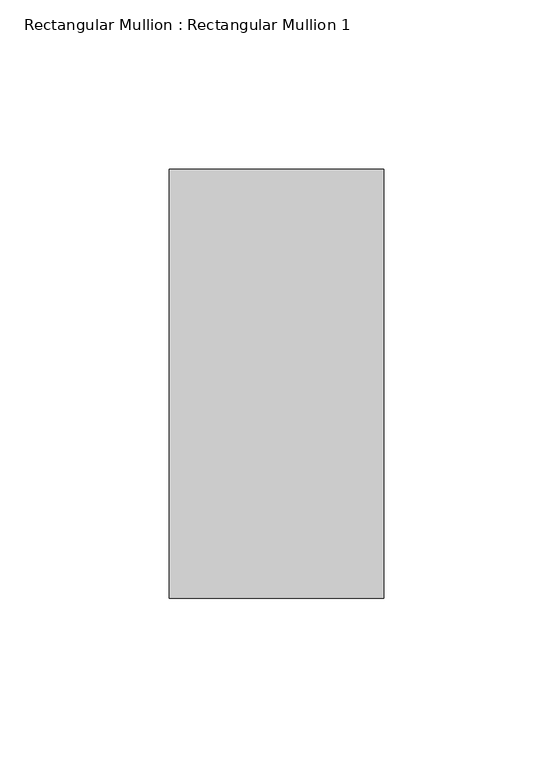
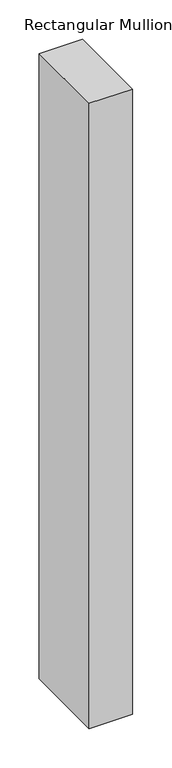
"""IFC4 building model written with IfcOpenShell, lengths in millimetres: member geometry, Rectangular Mullion : Rectangular Mullion 1."""

import ifcopenshell
import ifcopenshell.guid

model = None  # the IFC model being written
_history = None  # IfcOwnerHistory: only IFC2X3 demands one
_inside = {}  # id of a spatial element -> (the spatial element, [elements in it])
_under = {}  # id of a project, library or spatial element -> (it, [spatial elements below it])
_declared = {}  # id of a project -> (the project, [libraries it declares])
_typed = {}  # id of a type object -> (the type object, [elements of that type])
_made_of = {}  # id of a material, layer set ... -> (it, [elements and type objects made of it])


def new_model(schema):
    """Start an empty IFC model of exactly this schema.

    Asked for "IFC4X3", IfcOpenShell would pick the latest addendum, in which some entities
    have other attributes; the version numbers below select the first issue.
    IFC2X3 requires an IfcOwnerHistory on every rooted entity: one is made here for all.
    """
    global model, _history
    if schema == "IFC4X3":
        model = ifcopenshell.file(schema_version=(4, 3, 0, 0))
    else:
        model = ifcopenshell.file(schema=schema)
    _inside.clear()
    _under.clear()
    _declared.clear()
    _typed.clear()
    _made_of.clear()
    _history = None
    if model.schema == "IFC2X3":
        org = make("IfcOrganization", Name="unknown")
        user = make(
            "IfcPersonAndOrganization",
            ThePerson=make("IfcPerson", FamilyName="unknown"),
            TheOrganization=org,
        )
        app = make(
            "IfcApplication",
            ApplicationDeveloper=org,
            Version="unknown",
            ApplicationFullName="unknown",
            ApplicationIdentifier="unknown",
        )
        _history = make(
            "IfcOwnerHistory",
            OwningUser=user,
            OwningApplication=app,
            ChangeAction="ADDED",
            CreationDate=0,
        )
    return model


def make(cls, **values):
    """One entity of the class cls with the attributes given. An attribute that is None is left unset."""
    return model.create_entity(
        cls, **{name: value for name, value in values.items() if value is not None}
    )


def rooted(cls, **values):
    """An entity with a GlobalId (a new one), such as an element, a storey or a relation."""
    return make(cls, GlobalId=ifcopenshell.guid.new(), OwnerHistory=_history, **values)


def si_unit(unit_type, name, prefix=None):
    """IfcSIUnit, for example si_unit("LENGTHUNIT", "METRE", prefix="MILLI")."""
    return make("IfcSIUnit", UnitType=unit_type, Prefix=prefix, Name=name)


def assignment(units):
    """IfcUnitAssignment: the units of a project."""
    return None if units is None else make("IfcUnitAssignment", Units=units)


def point(xyz):
    """IfcCartesianPoint."""
    return None if xyz is None else make("IfcCartesianPoint", Coordinates=xyz)


def direction(xyz):
    """IfcDirection."""
    return None if xyz is None else make("IfcDirection", DirectionRatios=xyz)


def frame(location, z_axis=None, x_axis=None):
    """IfcAxis2Placement3D, a coordinate frame: its origin and axes. An axis left out is left unset."""
    return make(
        "IfcAxis2Placement3D",
        Location=point(location),
        Axis=direction(z_axis),
        RefDirection=direction(x_axis),
    )


def origin():
    """The frame at (0, 0, 0) with its axes left unset."""
    return frame((0.0, 0.0, 0.0))


def place(relative_to, where):
    """IfcLocalPlacement: puts the frame where relative to a parent placement (None: the world)."""
    return make(
        "IfcLocalPlacement", PlacementRelTo=relative_to, RelativePlacement=where
    )


def context(
    kind, dimensions, precision=None, world=None, true_north=None, identifier=None
):
    """IfcGeometricRepresentationContext, for example the 3D "Model" context."""
    return make(
        "IfcGeometricRepresentationContext",
        ContextIdentifier=identifier,
        ContextType=kind,
        CoordinateSpaceDimension=dimensions,
        Precision=precision,
        WorldCoordinateSystem=world,
        TrueNorth=true_north,
    )


def project(units=None, contexts=None):
    """IfcProject with its units and contexts."""
    return rooted(
        "IfcProject",
        Name="project",
        RepresentationContexts=contexts,
        UnitsInContext=assignment(units),
    )


def spatial(cls, under=None, at=None, **own):
    """A site, building, storey or space (cls), placed at a placement, below another one or the project."""
    s = rooted(cls, ObjectPlacement=at, **own)
    if under is not None:
        _under.setdefault(under.id(), (under, []))[1].append(s)
    return s


def polyline(points):
    """IfcPolyline through the points."""
    return make("IfcPolyline", Points=[point(p) for p in points])


def outline(outer, holes=None, kind="AREA"):
    """IfcArbitraryClosedProfileDef: a profile drawn as a closed curve; with holes, ...WithVoids."""
    if holes is None:
        return make("IfcArbitraryClosedProfileDef", ProfileType=kind, OuterCurve=outer)
    return make(
        "IfcArbitraryProfileDefWithVoids",
        ProfileType=kind,
        OuterCurve=outer,
        InnerCurves=holes,
    )


def extrude(swept, where, along, depth):
    """IfcExtrudedAreaSolid: the profile swept, set in the frame where, extruded along a direction by depth."""
    return make(
        "IfcExtrudedAreaSolid",
        SweptArea=swept,
        Position=where,
        ExtrudedDirection=direction(along),
        Depth=depth,
    )


def shape(context_of_items, identifier, shape_type, items):
    """IfcShapeRepresentation: the items that make up one representation, for example the "Body"."""
    return make(
        "IfcShapeRepresentation",
        ContextOfItems=context_of_items,
        RepresentationIdentifier=identifier,
        RepresentationType=shape_type,
        Items=items,
    )


def source(mapping_origin, context_of_items, identifier, shape_type, items):
    """IfcRepresentationMap: a shape defined once, which mapped items show again and again."""
    return make(
        "IfcRepresentationMap",
        MappingOrigin=mapping_origin,
        MappedRepresentation=shape(context_of_items, identifier, shape_type, items),
    )


def transform(
    local_origin,
    x_axis=None,
    y_axis=None,
    z_axis=None,
    scale=None,
    scale2=None,
    scale3=None,
    uniform=True,
):
    """IfcCartesianTransformationOperator3D, or its non-uniform kind. x_axis, y_axis, z_axis: its Axis1, 2, 3."""
    if uniform:
        return make(
            "IfcCartesianTransformationOperator3D",
            Axis1=direction(x_axis),
            Axis2=direction(y_axis),
            LocalOrigin=point(local_origin),
            Scale=scale,
            Axis3=direction(z_axis),
        )
    return make(
        "IfcCartesianTransformationOperator3DnonUniform",
        Axis1=direction(x_axis),
        Axis2=direction(y_axis),
        LocalOrigin=point(local_origin),
        Scale=scale,
        Axis3=direction(z_axis),
        Scale2=scale2,
        Scale3=scale3,
    )


def mapped(mapping_source, mapping_target):
    """IfcMappedItem: shows the shape of a source again, moved by a transform."""
    return make(
        "IfcMappedItem", MappingSource=mapping_source, MappingTarget=mapping_target
    )


def made_of(thing, what):
    """Note that an element or type object is made of a material, layer set ...; save() writes the relation."""
    if what is not None:
        _made_of.setdefault(what.id(), (what, []))[1].append(thing)
    return thing


def element(
    cls,
    number,
    at=None,
    inside=None,
    cuts=None,
    type_object=None,
    material=None,
    context=None,
    identifier="Body",
    shape_type=None,
    held_by="IfcProductDefinitionShape",
    body=None,
    shapes=None,
    **own,
):
    """One element of the class cls, such as IfcWall. Its Tag is "e" and its number.

    at: its placement. inside: the storey or other place that contains it. cuts: it is an
    opening in that element (IfcRelVoidsElement). A single representation is given by context,
    identifier, shape_type and body (its items); several are given by shapes. held_by: the class
    of the entity that holds the representations. save() writes the other relations.
    """
    e = rooted(cls, Tag="e%d" % number, ObjectPlacement=at, **own)
    if body is not None:
        shapes = [shape(context, identifier, shape_type, body)]
    if shapes is not None:
        e.Representation = make(held_by, Representations=shapes)
    if inside is not None:
        _inside.setdefault(inside.id(), (inside, []))[1].append(e)
    if cuts is not None:
        rooted(
            "IfcRelVoidsElement", RelatingBuildingElement=cuts, RelatedOpeningElement=e
        )
    if type_object is not None:
        _typed.setdefault(type_object.id(), (type_object, []))[1].append(e)
    return made_of(e, material)


def aggregate(whole, parts):
    """IfcRelAggregates: a whole, such as a stair, and the parts it consists of."""
    return rooted("IfcRelAggregates", RelatingObject=whole, RelatedObjects=parts)


def save(model, path):
    """Write the relations noted so far, then the file.

    IfcRelAggregates (storeys below a building ...), IfcRelContainedInSpatialStructure (elements
    in a storey), IfcRelDefinesByType, IfcRelAssociatesMaterial and IfcRelDeclares: one each for
    every whole, place, type object, material and project.
    """
    for whole, parts in _under.values():
        aggregate(whole, parts)
    for where, things in _inside.values():
        rooted(
            "IfcRelContainedInSpatialStructure",
            RelatedElements=things,
            RelatingStructure=where,
        )
    for kind, things in _typed.values():
        rooted("IfcRelDefinesByType", RelatedObjects=things, RelatingType=kind)
    for what, things in _made_of.values():
        rooted("IfcRelAssociatesMaterial", RelatedObjects=things, RelatingMaterial=what)
    for by, libraries in _declared.values():
        rooted("IfcRelDeclares", RelatingContext=by, RelatedDefinitions=libraries)
    model.write(path)


def rectangular_mullion_rectangular_mullion_1_bd9471c7(model_context):
    return source(origin(), model_context, "Body", "SweptSolid", [
        extrude(outline(polyline([(31.75, 63.5), (31.75, -63.5), (-31.75, -63.5), (-31.75, 63.5), (31.75, 63.5)])), frame((0.0, 0.0, -968.2083536), z_axis=(0.0, 0.0, 1.0), x_axis=(1.0, 0.0, 0.0)), (0.0, 0.0, 1.0), 968.2083536),
    ])


if __name__ == "__main__":
    model = new_model("IFC4")
    model_context = context("Model", 3, world=origin())
    ifc_project = project(units=[si_unit("LENGTHUNIT", "METRE", prefix="MILLI")], contexts=[model_context])
    site = spatial("IfcSite", under=ifc_project)
    building = spatial("IfcBuilding", under=site)
    placement = place(None, origin())
    rectangular_mullion_rectangular_mullion_1_shape = rectangular_mullion_rectangular_mullion_1_bd9471c7(model_context)
    element("IfcMember", 1, ObjectType="Rectangular Mullion : Rectangular Mullion 1", at=placement, inside=building, context=model_context, shape_type="MappedRepresentation", body=[
        mapped(rectangular_mullion_rectangular_mullion_1_shape, transform((0.0, 0.0, 0.0), x_axis=(1.0, 0.0, 0.0), y_axis=(0.0, 1.0, 0.0), z_axis=(0.0, 0.0, 1.0))),
    ])
    save(model, "model.ifc")
